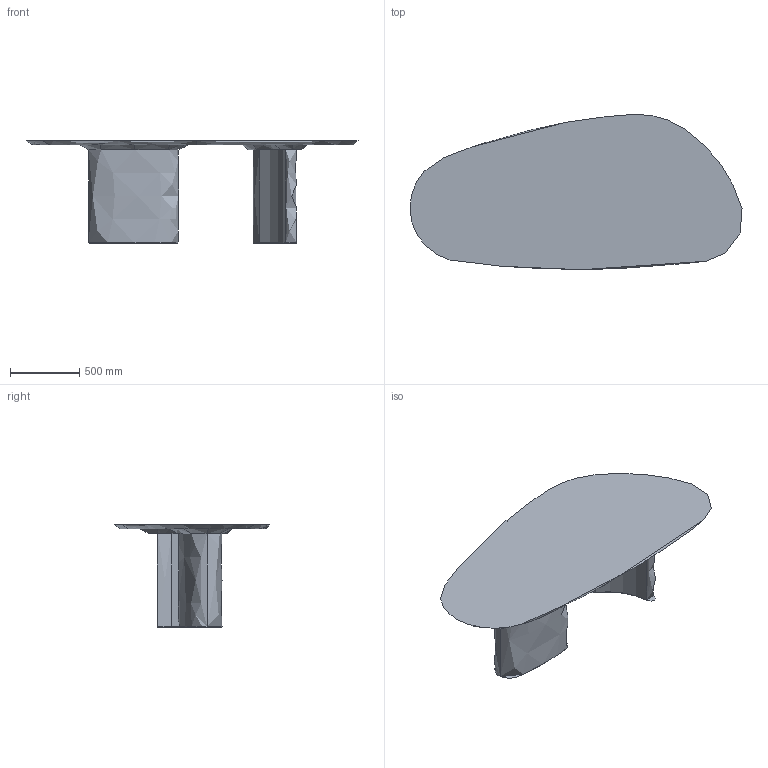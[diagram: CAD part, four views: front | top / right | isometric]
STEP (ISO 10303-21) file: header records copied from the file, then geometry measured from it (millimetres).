
FILE_DESCRIPTION(/* description */ (''),/* implementation_level */ '2;1');
FILE_NAME(/* name */ 'Tangent Retangular_L240xB112xH74_3D',/* time_stamp */ '2026-04-09T17:22:37+02:00',/* author */ (''),/* organization */ (''),/* preprocessor_version */ 'ST-DEVELOPER v16.5',/* originating_system */ 'Rhino 7.38',/* authorisation */ '');
FILE_SCHEMA (('CONFIG_CONTROL_DESIGN'));
Length unit declared in the file: millimetre
Products named in the file (1): Document
Bounding box: 2393.01 x 1119.82 x 740 mm (x, y, z)
Volume: 214093023.1 mm3; surface area: 7702805.7 mm2
Topology: 5 solids, 5 shells, 72 faces, 163 edges, 101 vertices
Faces by surface type: bspline 48, plane 19, cylinder 5
Entity records: 8952 total; most frequent: CARTESIAN_POINT 7889, ORIENTED_EDGE 326, EDGE_CURVE 163, VERTEX_POINT 101, ADVANCED_FACE 72, FACE_OUTER_BOUND 72, EDGE_LOOP 72, B_SPLINE_CURVE_WITH_KNOTS 66
